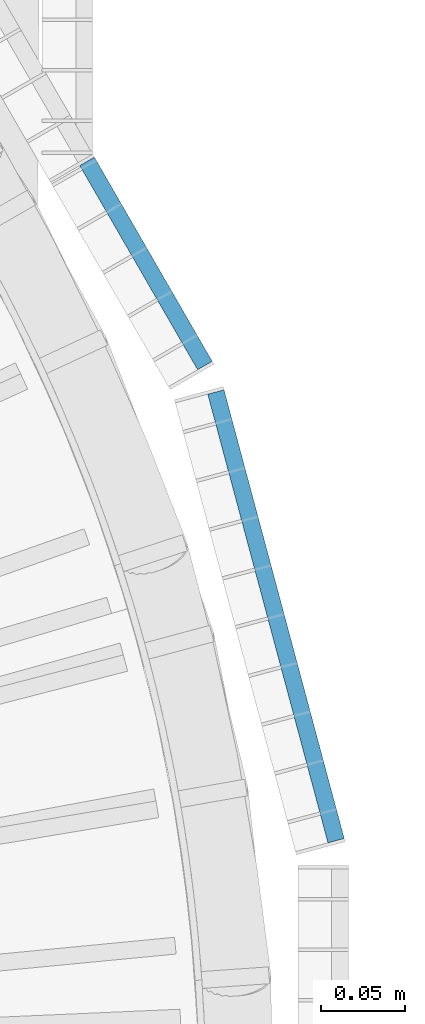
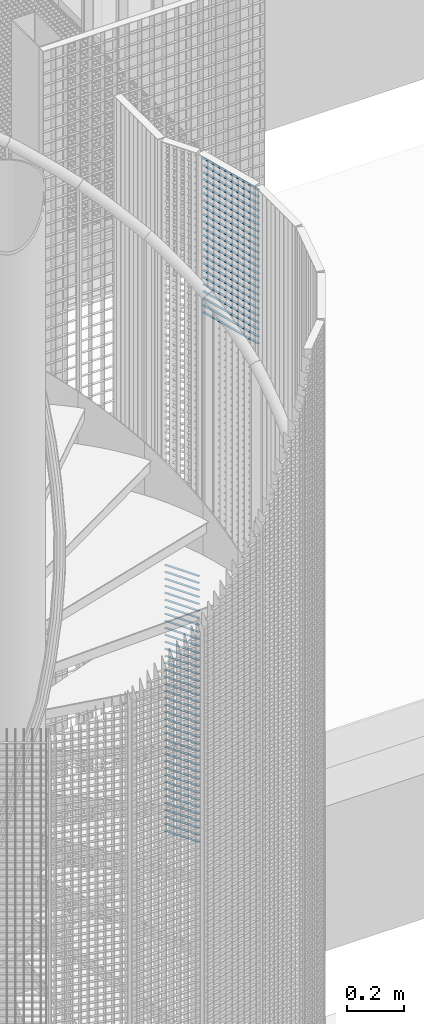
# One storey, part 275 of 1183: 62 beams, 2 elements without a shape of their own.
"""IFC2X3 building model written with IfcOpenShell, lengths in millimetres."""

from ifc_helpers import new_model, si_unit, frame, origin_with_axes, origin_2d_with_axis, place, context, subcontext, project, spatial, rectangle, extrude, material, type_object, element, aggregate, save


model = new_model("IFC2X3")

# Units and contexts
model_context = context("Model", 3, precision=1e-05, world=origin_with_axes())
body_context = subcontext(model_context, "Body", "Model", "MODEL_VIEW")
ifc_project = project(units=[si_unit("LENGTHUNIT", "METRE", prefix="MILLI"), si_unit("AREAUNIT", "SQUARE_METRE"), si_unit("VOLUMEUNIT", "CUBIC_METRE"), si_unit("MASSUNIT", "GRAM", prefix="KILO"), si_unit("TIMEUNIT", "SECOND"), si_unit("PLANEANGLEUNIT", "RADIAN"), si_unit("SOLIDANGLEUNIT", "STERADIAN"), si_unit("THERMODYNAMICTEMPERATUREUNIT", "DEGREE_CELSIUS"), si_unit("LUMINOUSINTENSITYUNIT", "LUMEN")], contexts=[model_context])

# Site, building, storey
site_placement = place(None, origin_with_axes())
site = spatial("IfcSite", under=ifc_project, at=site_placement, Name="Undefined", CompositionType="ELEMENT")
building_placement = place(site_placement, origin_with_axes())
building = spatial("IfcBuilding", under=site, at=building_placement, Name="Undefined", CompositionType="ELEMENT")
storey_placement = place(building_placement, origin_with_axes())
storey = spatial("IfcBuildingStorey", under=building, at=storey_placement, Name="Undefined", CompositionType="ELEMENT", Elevation=0.0)

# Assembly, beams
assembly_1_placement = place(storey_placement, origin_with_axes())
assembly_1 = element("IfcElementAssembly", 1, at=assembly_1_placement, inside=storey, Name="BORDURE", AssemblyPlace="NOTDEFINED", PredefinedType="NOTDEFINED")
ifc_material = material(Name="STEEL/S235JR")
beam_type = type_object("IfcBeamType", Name="PL2*10", PredefinedType="NOTDEFINED")
beam_1_placement = place(assembly_1_placement, frame((1033.29994283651, 437.23199953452, 16170.0), z_axis=(0.866030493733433, 0.499991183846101, 0.0), x_axis=(-0.499991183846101, 0.866030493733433, 0.0)))
beam_1 = element("IfcBeam", 2, at=beam_1_placement, type_object=beam_type, material=ifc_material, Name="ENTRETOISE", context=body_context, shape_type="SweptSolid", body=[
    extrude(rectangle(XDim=2.0, YDim=10.0, at=origin_2d_with_axis()), frame((140.102470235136, 0.0, 0.0), z_axis=(-1.0, 0.0, 0.0), x_axis=(0.0, -1.0, 0.0)), (0.0, 0.0, 1.0), 140.1),
])
beam_2_placement = place(assembly_1_placement, frame((1033.29994283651, 437.23199953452, 16140.0), z_axis=(0.866030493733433, 0.499991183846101, 0.0), x_axis=(-0.499991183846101, 0.866030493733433, 0.0)))
beam_2 = element("IfcBeam", 3, at=beam_2_placement, type_object=beam_type, material=ifc_material, Name="ENTRETOISE", context=body_context, shape_type="SweptSolid", body=[
    extrude(rectangle(XDim=2.0, YDim=10.0, at=origin_2d_with_axis()), frame((140.102470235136, 0.0, 0.0), z_axis=(-1.0, 0.0, 0.0), x_axis=(0.0, -1.0, 0.0)), (0.0, 0.0, 1.0), 140.1),
])
beam_3_placement = place(assembly_1_placement, frame((1033.29994283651, 437.231999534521, 15720.0), z_axis=(0.866030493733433, 0.499991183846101, 0.0), x_axis=(-0.499991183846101, 0.866030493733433, 0.0)))
beam_3 = element("IfcBeam", 4, at=beam_3_placement, type_object=beam_type, material=ifc_material, Name="ENTRETOISE", context=body_context, shape_type="SweptSolid", body=[
    extrude(rectangle(XDim=2.0, YDim=10.0, at=origin_2d_with_axis()), frame((140.102470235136, 0.0, 0.0), z_axis=(-1.0, 0.0, 0.0), x_axis=(0.0, -1.0, 0.0)), (0.0, 0.0, 1.0), 140.1),
])
beam_4_placement = place(assembly_1_placement, frame((1033.29994283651, 437.231999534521, 15690.0), z_axis=(0.866030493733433, 0.499991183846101, 0.0), x_axis=(-0.499991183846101, 0.866030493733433, 0.0)))
beam_4 = element("IfcBeam", 5, at=beam_4_placement, type_object=beam_type, material=ifc_material, Name="ENTRETOISE", context=body_context, shape_type="SweptSolid", body=[
    extrude(rectangle(XDim=2.0, YDim=10.0, at=origin_2d_with_axis()), frame((140.102470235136, 0.0, 0.0), z_axis=(-1.0, 0.0, 0.0), x_axis=(0.0, -1.0, 0.0)), (0.0, 0.0, 1.0), 140.1),
])
beam_5_placement = place(assembly_1_placement, frame((1033.29994283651, 437.231999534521, 15750.0), z_axis=(0.866030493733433, 0.499991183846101, 0.0), x_axis=(-0.499991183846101, 0.866030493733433, 0.0)))
beam_5 = element("IfcBeam", 6, at=beam_5_placement, type_object=beam_type, material=ifc_material, Name="ENTRETOISE", context=body_context, shape_type="SweptSolid", body=[
    extrude(rectangle(XDim=2.0, YDim=10.0, at=origin_2d_with_axis()), frame((140.102470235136, 0.0, 0.0), z_axis=(-1.0, 0.0, 0.0), x_axis=(0.0, -1.0, 0.0)), (0.0, 0.0, 1.0), 140.1),
])
beam_6_placement = place(assembly_1_placement, frame((1033.29994283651, 437.231999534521, 15660.0), z_axis=(0.866030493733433, 0.499991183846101, 0.0), x_axis=(-0.499991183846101, 0.866030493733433, 0.0)))
beam_6 = element("IfcBeam", 7, at=beam_6_placement, type_object=beam_type, material=ifc_material, Name="ENTRETOISE", context=body_context, shape_type="SweptSolid", body=[
    extrude(rectangle(XDim=2.0, YDim=10.0, at=origin_2d_with_axis()), frame((140.102470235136, 0.0, 0.0), z_axis=(-1.0, 0.0, 0.0), x_axis=(0.0, -1.0, 0.0)), (0.0, 0.0, 1.0), 140.1),
])
beam_7_placement = place(assembly_1_placement, frame((1033.29994283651, 437.231999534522, 15630.0), z_axis=(0.866030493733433, 0.499991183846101, 0.0), x_axis=(-0.499991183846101, 0.866030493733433, 0.0)))
beam_7 = element("IfcBeam", 8, at=beam_7_placement, type_object=beam_type, material=ifc_material, Name="ENTRETOISE", context=body_context, shape_type="SweptSolid", body=[
    extrude(rectangle(XDim=2.0, YDim=10.0, at=origin_2d_with_axis()), frame((140.102470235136, 0.0, 0.0), z_axis=(-1.0, 0.0, 0.0), x_axis=(0.0, -1.0, 0.0)), (0.0, 0.0, 1.0), 140.1),
])
beam_8_placement = place(assembly_1_placement, frame((1033.29994283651, 437.231999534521, 15780.0), z_axis=(0.866030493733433, 0.499991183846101, 0.0), x_axis=(-0.499991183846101, 0.866030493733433, 0.0)))
beam_8 = element("IfcBeam", 9, at=beam_8_placement, type_object=beam_type, material=ifc_material, Name="ENTRETOISE", context=body_context, shape_type="SweptSolid", body=[
    extrude(rectangle(XDim=2.0, YDim=10.0, at=origin_2d_with_axis()), frame((140.102470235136, 0.0, 0.0), z_axis=(-1.0, 0.0, 0.0), x_axis=(0.0, -1.0, 0.0)), (0.0, 0.0, 1.0), 140.1),
])
beam_9_placement = place(assembly_1_placement, frame((1033.29994283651, 437.231999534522, 15600.0), z_axis=(0.866030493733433, 0.499991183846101, 0.0), x_axis=(-0.499991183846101, 0.866030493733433, 0.0)))
beam_9 = element("IfcBeam", 10, at=beam_9_placement, type_object=beam_type, material=ifc_material, Name="ENTRETOISE", context=body_context, shape_type="SweptSolid", body=[
    extrude(rectangle(XDim=2.0, YDim=10.0, at=origin_2d_with_axis()), frame((140.102470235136, 0.0, 0.0), z_axis=(-1.0, 0.0, 0.0), x_axis=(0.0, -1.0, 0.0)), (0.0, 0.0, 1.0), 140.1),
])
beam_10_placement = place(assembly_1_placement, frame((1033.29994283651, 437.231999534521, 15810.0), z_axis=(0.866030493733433, 0.499991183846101, 0.0), x_axis=(-0.499991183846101, 0.866030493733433, 0.0)))
beam_10 = element("IfcBeam", 11, at=beam_10_placement, type_object=beam_type, material=ifc_material, Name="ENTRETOISE", context=body_context, shape_type="SweptSolid", body=[
    extrude(rectangle(XDim=2.0, YDim=10.0, at=origin_2d_with_axis()), frame((140.102470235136, 0.0, 0.0), z_axis=(-1.0, 0.0, 0.0), x_axis=(0.0, -1.0, 0.0)), (0.0, 0.0, 1.0), 140.1),
])
beam_11_placement = place(assembly_1_placement, frame((1033.29994283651, 437.231999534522, 15570.0), z_axis=(0.866030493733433, 0.499991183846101, 0.0), x_axis=(-0.499991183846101, 0.866030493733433, 0.0)))
beam_11 = element("IfcBeam", 12, at=beam_11_placement, type_object=beam_type, material=ifc_material, Name="ENTRETOISE", context=body_context, shape_type="SweptSolid", body=[
    extrude(rectangle(XDim=2.0, YDim=10.0, at=origin_2d_with_axis()), frame((140.102470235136, 0.0, 0.0), z_axis=(-1.0, 0.0, 0.0), x_axis=(0.0, -1.0, 0.0)), (0.0, 0.0, 1.0), 140.1),
])
beam_12_placement = place(assembly_1_placement, frame((1033.29994283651, 437.231999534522, 15540.0), z_axis=(0.866030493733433, 0.499991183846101, 0.0), x_axis=(-0.499991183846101, 0.866030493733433, 0.0)))
beam_12 = element("IfcBeam", 13, at=beam_12_placement, type_object=beam_type, material=ifc_material, Name="ENTRETOISE", context=body_context, shape_type="SweptSolid", body=[
    extrude(rectangle(XDim=2.0, YDim=10.0, at=origin_2d_with_axis()), frame((140.102470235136, 0.0, 0.0), z_axis=(-1.0, 0.0, 0.0), x_axis=(0.0, -1.0, 0.0)), (0.0, 0.0, 1.0), 140.1),
])
beam_13_placement = place(assembly_1_placement, frame((1033.29994283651, 437.231999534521, 15840.0), z_axis=(0.866030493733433, 0.499991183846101, 0.0), x_axis=(-0.499991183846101, 0.866030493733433, 0.0)))
beam_13 = element("IfcBeam", 14, at=beam_13_placement, type_object=beam_type, material=ifc_material, Name="ENTRETOISE", context=body_context, shape_type="SweptSolid", body=[
    extrude(rectangle(XDim=2.0, YDim=10.0, at=origin_2d_with_axis()), frame((140.102470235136, 0.0, 0.0), z_axis=(-1.0, 0.0, 0.0), x_axis=(0.0, -1.0, 0.0)), (0.0, 0.0, 1.0), 140.1),
])
beam_14_placement = place(assembly_1_placement, frame((1033.29994283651, 437.231999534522, 15510.0), z_axis=(0.866030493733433, 0.499991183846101, 0.0), x_axis=(-0.499991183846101, 0.866030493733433, 0.0)))
beam_14 = element("IfcBeam", 15, at=beam_14_placement, type_object=beam_type, material=ifc_material, Name="ENTRETOISE", context=body_context, shape_type="SweptSolid", body=[
    extrude(rectangle(XDim=2.0, YDim=10.0, at=origin_2d_with_axis()), frame((140.102470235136, 0.0, 0.0), z_axis=(-1.0, 0.0, 0.0), x_axis=(0.0, -1.0, 0.0)), (0.0, 0.0, 1.0), 140.1),
])
beam_15_placement = place(assembly_1_placement, frame((1033.29994283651, 437.231999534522, 15480.0), z_axis=(0.866030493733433, 0.499991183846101, 0.0), x_axis=(-0.499991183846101, 0.866030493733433, 0.0)))
beam_15 = element("IfcBeam", 16, at=beam_15_placement, type_object=beam_type, material=ifc_material, Name="ENTRETOISE", context=body_context, shape_type="SweptSolid", body=[
    extrude(rectangle(XDim=2.0, YDim=10.0, at=origin_2d_with_axis()), frame((140.102470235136, 0.0, 0.0), z_axis=(-1.0, 0.0, 0.0), x_axis=(0.0, -1.0, 0.0)), (0.0, 0.0, 1.0), 140.1),
])
beam_16_placement = place(assembly_1_placement, frame((1033.29994283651, 437.231999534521, 15870.0), z_axis=(0.866030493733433, 0.499991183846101, 0.0), x_axis=(-0.499991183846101, 0.866030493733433, 0.0)))
beam_16 = element("IfcBeam", 17, at=beam_16_placement, type_object=beam_type, material=ifc_material, Name="ENTRETOISE", context=body_context, shape_type="SweptSolid", body=[
    extrude(rectangle(XDim=2.0, YDim=10.0, at=origin_2d_with_axis()), frame((140.102470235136, 0.0, 0.0), z_axis=(-1.0, 0.0, 0.0), x_axis=(0.0, -1.0, 0.0)), (0.0, 0.0, 1.0), 140.1),
])
beam_17_placement = place(assembly_1_placement, frame((1033.29994283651, 437.231999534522, 15450.0), z_axis=(0.866030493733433, 0.499991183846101, 0.0), x_axis=(-0.499991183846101, 0.866030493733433, 0.0)))
beam_17 = element("IfcBeam", 18, at=beam_17_placement, type_object=beam_type, material=ifc_material, Name="ENTRETOISE", context=body_context, shape_type="SweptSolid", body=[
    extrude(rectangle(XDim=2.0, YDim=10.0, at=origin_2d_with_axis()), frame((140.102470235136, 0.0, 0.0), z_axis=(-1.0, 0.0, 0.0), x_axis=(0.0, -1.0, 0.0)), (0.0, 0.0, 1.0), 140.1),
])
beam_18_placement = place(assembly_1_placement, frame((1033.29994283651, 437.231999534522, 15420.0), z_axis=(0.866030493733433, 0.499991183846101, 0.0), x_axis=(-0.499991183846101, 0.866030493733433, 0.0)))
beam_18 = element("IfcBeam", 19, at=beam_18_placement, type_object=beam_type, material=ifc_material, Name="ENTRETOISE", context=body_context, shape_type="SweptSolid", body=[
    extrude(rectangle(XDim=2.0, YDim=10.0, at=origin_2d_with_axis()), frame((140.102470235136, 0.0, 0.0), z_axis=(-1.0, 0.0, 0.0), x_axis=(0.0, -1.0, 0.0)), (0.0, 0.0, 1.0), 140.1),
])
beam_19_placement = place(assembly_1_placement, frame((1033.29994283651, 437.231999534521, 15900.0), z_axis=(0.866030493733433, 0.499991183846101, 0.0), x_axis=(-0.499991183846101, 0.866030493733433, 0.0)))
beam_19 = element("IfcBeam", 20, at=beam_19_placement, type_object=beam_type, material=ifc_material, Name="ENTRETOISE", context=body_context, shape_type="SweptSolid", body=[
    extrude(rectangle(XDim=2.0, YDim=10.0, at=origin_2d_with_axis()), frame((140.102470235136, 0.0, 0.0), z_axis=(-1.0, 0.0, 0.0), x_axis=(0.0, -1.0, 0.0)), (0.0, 0.0, 1.0), 140.1),
])
beam_20_placement = place(assembly_1_placement, frame((1033.29994283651, 437.231999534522, 15390.0), z_axis=(0.866030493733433, 0.499991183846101, 0.0), x_axis=(-0.499991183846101, 0.866030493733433, 0.0)))
beam_20 = element("IfcBeam", 21, at=beam_20_placement, type_object=beam_type, material=ifc_material, Name="ENTRETOISE", context=body_context, shape_type="SweptSolid", body=[
    extrude(rectangle(XDim=2.0, YDim=10.0, at=origin_2d_with_axis()), frame((140.102470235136, 0.0, 0.0), z_axis=(-1.0, 0.0, 0.0), x_axis=(0.0, -1.0, 0.0)), (0.0, 0.0, 1.0), 140.1),
])
beam_21_placement = place(assembly_1_placement, frame((1033.29994283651, 437.23199953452, 15930.0), z_axis=(0.866030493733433, 0.499991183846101, 0.0), x_axis=(-0.499991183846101, 0.866030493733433, 0.0)))
beam_21 = element("IfcBeam", 22, at=beam_21_placement, type_object=beam_type, material=ifc_material, Name="ENTRETOISE", context=body_context, shape_type="SweptSolid", body=[
    extrude(rectangle(XDim=2.0, YDim=10.0, at=origin_2d_with_axis()), frame((140.102470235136, 0.0, 0.0), z_axis=(-1.0, 0.0, 0.0), x_axis=(0.0, -1.0, 0.0)), (0.0, 0.0, 1.0), 140.1),
])
beam_22_placement = place(assembly_1_placement, frame((1033.29994283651, 437.231999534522, 15360.0), z_axis=(0.866030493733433, 0.499991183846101, 0.0), x_axis=(-0.499991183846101, 0.866030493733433, 0.0)))
beam_22 = element("IfcBeam", 23, at=beam_22_placement, type_object=beam_type, material=ifc_material, Name="ENTRETOISE", context=body_context, shape_type="SweptSolid", body=[
    extrude(rectangle(XDim=2.0, YDim=10.0, at=origin_2d_with_axis()), frame((140.102470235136, 0.0, 0.0), z_axis=(-1.0, 0.0, 0.0), x_axis=(0.0, -1.0, 0.0)), (0.0, 0.0, 1.0), 140.1),
])
beam_23_placement = place(assembly_1_placement, frame((1033.29994283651, 437.231999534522, 15330.0), z_axis=(0.866030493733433, 0.499991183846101, 0.0), x_axis=(-0.499991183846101, 0.866030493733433, 0.0)))
beam_23 = element("IfcBeam", 24, at=beam_23_placement, type_object=beam_type, material=ifc_material, Name="ENTRETOISE", context=body_context, shape_type="SweptSolid", body=[
    extrude(rectangle(XDim=2.0, YDim=10.0, at=origin_2d_with_axis()), frame((140.102470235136, 0.0, 0.0), z_axis=(-1.0, 0.0, 0.0), x_axis=(0.0, -1.0, 0.0)), (0.0, 0.0, 1.0), 140.1),
])
beam_24_placement = place(assembly_1_placement, frame((1033.29994283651, 437.23199953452, 15960.0), z_axis=(0.866030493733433, 0.499991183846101, 0.0), x_axis=(-0.499991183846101, 0.866030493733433, 0.0)))
beam_24 = element("IfcBeam", 25, at=beam_24_placement, type_object=beam_type, material=ifc_material, Name="ENTRETOISE", context=body_context, shape_type="SweptSolid", body=[
    extrude(rectangle(XDim=2.0, YDim=10.0, at=origin_2d_with_axis()), frame((140.102470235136, 0.0, 0.0), z_axis=(-1.0, 0.0, 0.0), x_axis=(0.0, -1.0, 0.0)), (0.0, 0.0, 1.0), 140.1),
])
beam_25_placement = place(assembly_1_placement, frame((1033.29994283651, 437.231999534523, 15300.0), z_axis=(0.866030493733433, 0.499991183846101, 0.0), x_axis=(-0.499991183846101, 0.866030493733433, 0.0)))
beam_25 = element("IfcBeam", 26, at=beam_25_placement, type_object=beam_type, material=ifc_material, Name="ENTRETOISE", context=body_context, shape_type="SweptSolid", body=[
    extrude(rectangle(XDim=2.0, YDim=10.0, at=origin_2d_with_axis()), frame((140.102470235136, 0.0, 0.0), z_axis=(-1.0, 0.0, 0.0), x_axis=(0.0, -1.0, 0.0)), (0.0, 0.0, 1.0), 140.1),
])
beam_26_placement = place(assembly_1_placement, frame((1033.29994283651, 437.231999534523, 15270.0), z_axis=(0.866030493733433, 0.499991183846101, 0.0), x_axis=(-0.499991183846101, 0.866030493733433, 0.0)))
beam_26 = element("IfcBeam", 27, at=beam_26_placement, type_object=beam_type, material=ifc_material, Name="ENTRETOISE", context=body_context, shape_type="SweptSolid", body=[
    extrude(rectangle(XDim=2.0, YDim=10.0, at=origin_2d_with_axis()), frame((140.102470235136, 0.0, 0.0), z_axis=(-1.0, 0.0, 0.0), x_axis=(0.0, -1.0, 0.0)), (0.0, 0.0, 1.0), 140.1),
])
beam_27_placement = place(assembly_1_placement, frame((1033.29994283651, 437.23199953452, 15990.0), z_axis=(0.866030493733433, 0.499991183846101, 0.0), x_axis=(-0.499991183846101, 0.866030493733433, 0.0)))
beam_27 = element("IfcBeam", 28, at=beam_27_placement, type_object=beam_type, material=ifc_material, Name="ENTRETOISE", context=body_context, shape_type="SweptSolid", body=[
    extrude(rectangle(XDim=2.0, YDim=10.0, at=origin_2d_with_axis()), frame((140.102470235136, 0.0, 0.0), z_axis=(-1.0, 0.0, 0.0), x_axis=(0.0, -1.0, 0.0)), (0.0, 0.0, 1.0), 140.1),
])
beam_28_placement = place(assembly_1_placement, frame((1033.29994283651, 437.231999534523, 15240.0), z_axis=(0.866030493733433, 0.499991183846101, 0.0), x_axis=(-0.499991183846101, 0.866030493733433, 0.0)))
beam_28 = element("IfcBeam", 29, at=beam_28_placement, type_object=beam_type, material=ifc_material, Name="ENTRETOISE", context=body_context, shape_type="SweptSolid", body=[
    extrude(rectangle(XDim=2.0, YDim=10.0, at=origin_2d_with_axis()), frame((140.102470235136, 0.0, 0.0), z_axis=(-1.0, 0.0, 0.0), x_axis=(0.0, -1.0, 0.0)), (0.0, 0.0, 1.0), 140.1),
])
beam_29_placement = place(assembly_1_placement, frame((1033.29994283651, 437.23199953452, 16020.0), z_axis=(0.866030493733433, 0.499991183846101, 0.0), x_axis=(-0.499991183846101, 0.866030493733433, 0.0)))
beam_29 = element("IfcBeam", 30, at=beam_29_placement, type_object=beam_type, material=ifc_material, Name="ENTRETOISE", context=body_context, shape_type="SweptSolid", body=[
    extrude(rectangle(XDim=2.0, YDim=10.0, at=origin_2d_with_axis()), frame((140.102470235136, 0.0, 0.0), z_axis=(-1.0, 0.0, 0.0), x_axis=(0.0, -1.0, 0.0)), (0.0, 0.0, 1.0), 140.1),
])
beam_30_placement = place(assembly_1_placement, frame((1033.29994283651, 437.231999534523, 15210.0), z_axis=(0.866030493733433, 0.499991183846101, 0.0), x_axis=(-0.499991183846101, 0.866030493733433, 0.0)))
beam_30 = element("IfcBeam", 31, at=beam_30_placement, type_object=beam_type, material=ifc_material, Name="ENTRETOISE", context=body_context, shape_type="SweptSolid", body=[
    extrude(rectangle(XDim=2.0, YDim=10.0, at=origin_2d_with_axis()), frame((140.102470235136, 0.0, 0.0), z_axis=(-1.0, 0.0, 0.0), x_axis=(0.0, -1.0, 0.0)), (0.0, 0.0, 1.0), 140.1),
])
beam_31_placement = place(assembly_1_placement, frame((1033.29994283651, 437.231999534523, 15180.0), z_axis=(0.866030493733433, 0.499991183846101, 0.0), x_axis=(-0.499991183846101, 0.866030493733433, 0.0)))
beam_31 = element("IfcBeam", 32, at=beam_31_placement, type_object=beam_type, material=ifc_material, Name="ENTRETOISE", context=body_context, shape_type="SweptSolid", body=[
    extrude(rectangle(XDim=2.0, YDim=10.0, at=origin_2d_with_axis()), frame((140.102470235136, 0.0, 0.0), z_axis=(-1.0, 0.0, 0.0), x_axis=(0.0, -1.0, 0.0)), (0.0, 0.0, 1.0), 140.1),
])
beam_32_placement = place(assembly_1_placement, frame((1033.29994283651, 437.23199953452, 16050.0), z_axis=(0.866030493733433, 0.499991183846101, 0.0), x_axis=(-0.499991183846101, 0.866030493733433, 0.0)))
beam_32 = element("IfcBeam", 33, at=beam_32_placement, type_object=beam_type, material=ifc_material, Name="ENTRETOISE", context=body_context, shape_type="SweptSolid", body=[
    extrude(rectangle(XDim=2.0, YDim=10.0, at=origin_2d_with_axis()), frame((140.102470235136, 0.0, 0.0), z_axis=(-1.0, 0.0, 0.0), x_axis=(0.0, -1.0, 0.0)), (0.0, 0.0, 1.0), 140.1),
])
beam_33_placement = place(assembly_1_placement, frame((1033.29994283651, 437.231999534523, 15150.0), z_axis=(0.866030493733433, 0.499991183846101, 0.0), x_axis=(-0.499991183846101, 0.866030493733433, 0.0)))
beam_33 = element("IfcBeam", 34, at=beam_33_placement, type_object=beam_type, material=ifc_material, Name="ENTRETOISE", context=body_context, shape_type="SweptSolid", body=[
    extrude(rectangle(XDim=2.0, YDim=10.0, at=origin_2d_with_axis()), frame((140.102470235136, 0.0, 0.0), z_axis=(-1.0, 0.0, 0.0), x_axis=(0.0, -1.0, 0.0)), (0.0, 0.0, 1.0), 140.1),
])
beam_34_placement = place(assembly_1_placement, frame((1033.29994283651, 437.231999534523, 15120.0), z_axis=(0.866030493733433, 0.499991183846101, 0.0), x_axis=(-0.499991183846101, 0.866030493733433, 0.0)))
beam_34 = element("IfcBeam", 35, at=beam_34_placement, type_object=beam_type, material=ifc_material, Name="ENTRETOISE", context=body_context, shape_type="SweptSolid", body=[
    extrude(rectangle(XDim=2.0, YDim=10.0, at=origin_2d_with_axis()), frame((140.102470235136, 0.0, 0.0), z_axis=(-1.0, 0.0, 0.0), x_axis=(0.0, -1.0, 0.0)), (0.0, 0.0, 1.0), 140.1),
])
beam_35_placement = place(assembly_1_placement, frame((1033.29994283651, 437.23199953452, 16080.0), z_axis=(0.866030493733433, 0.499991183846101, 0.0), x_axis=(-0.499991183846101, 0.866030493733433, 0.0)))
beam_35 = element("IfcBeam", 36, at=beam_35_placement, type_object=beam_type, material=ifc_material, Name="ENTRETOISE", context=body_context, shape_type="SweptSolid", body=[
    extrude(rectangle(XDim=2.0, YDim=10.0, at=origin_2d_with_axis()), frame((140.102470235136, 0.0, 0.0), z_axis=(-1.0, 0.0, 0.0), x_axis=(0.0, -1.0, 0.0)), (0.0, 0.0, 1.0), 140.1),
])
beam_36_placement = place(assembly_1_placement, frame((1033.29994283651, 437.231999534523, 15090.0), z_axis=(0.866030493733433, 0.499991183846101, 0.0), x_axis=(-0.499991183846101, 0.866030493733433, 0.0)))
beam_36 = element("IfcBeam", 37, at=beam_36_placement, type_object=beam_type, material=ifc_material, Name="ENTRETOISE", context=body_context, shape_type="SweptSolid", body=[
    extrude(rectangle(XDim=2.0, YDim=10.0, at=origin_2d_with_axis()), frame((140.102470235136, 0.0, 0.0), z_axis=(-1.0, 0.0, 0.0), x_axis=(0.0, -1.0, 0.0)), (0.0, 0.0, 1.0), 140.1),
])
beam_37_placement = place(assembly_1_placement, frame((1033.2999428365, 437.231999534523, 15060.0), z_axis=(0.866030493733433, 0.499991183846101, 0.0), x_axis=(-0.499991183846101, 0.866030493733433, 0.0)))
beam_37 = element("IfcBeam", 38, at=beam_37_placement, type_object=beam_type, material=ifc_material, Name="ENTRETOISE", context=body_context, shape_type="SweptSolid", body=[
    extrude(rectangle(XDim=2.0, YDim=10.0, at=origin_2d_with_axis()), frame((140.102470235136, 0.0, 0.0), z_axis=(-1.0, 0.0, 0.0), x_axis=(0.0, -1.0, 0.0)), (0.0, 0.0, 1.0), 140.1),
])
beam_38_placement = place(assembly_1_placement, frame((1033.29994283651, 437.23199953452, 16110.0), z_axis=(0.866030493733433, 0.499991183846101, 0.0), x_axis=(-0.499991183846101, 0.866030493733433, 0.0)))
beam_38 = element("IfcBeam", 39, at=beam_38_placement, type_object=beam_type, material=ifc_material, Name="ENTRETOISE", context=body_context, shape_type="SweptSolid", body=[
    extrude(rectangle(XDim=2.0, YDim=10.0, at=origin_2d_with_axis()), frame((140.102470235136, 0.0, 0.0), z_axis=(-1.0, 0.0, 0.0), x_axis=(0.0, -1.0, 0.0)), (0.0, 0.0, 1.0), 140.1),
])
beam_39_placement = place(assembly_1_placement, frame((1033.2999428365, 437.231999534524, 15030.0), z_axis=(0.866030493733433, 0.499991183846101, 0.0), x_axis=(-0.499991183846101, 0.866030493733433, 0.0)))
beam_39 = element("IfcBeam", 40, at=beam_39_placement, type_object=beam_type, material=ifc_material, Name="ENTRETOISE", context=body_context, shape_type="SweptSolid", body=[
    extrude(rectangle(XDim=2.0, YDim=10.0, at=origin_2d_with_axis()), frame((140.102470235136, 0.0, 0.0), z_axis=(-1.0, 0.0, 0.0), x_axis=(0.0, -1.0, 0.0)), (0.0, 0.0, 1.0), 140.1),
])
aggregate(assembly_1, [beam_1, beam_2, beam_3, beam_4, beam_5, beam_6, beam_7, beam_8, beam_9, beam_10, beam_11, beam_12, beam_13, beam_14, beam_15, beam_16, beam_17, beam_18, beam_19, beam_20, beam_21, beam_22, beam_23, beam_24, beam_25, beam_26, beam_27, beam_28, beam_29, beam_30, beam_31, beam_32, beam_33, beam_34, beam_35, beam_36, beam_37, beam_38, beam_39])

assembly_2_placement = place(storey_placement, origin_with_axes())
assembly_2 = element("IfcElementAssembly", 41, at=assembly_2_placement, inside=storey, Name="BORDURE", AssemblyPlace="NOTDEFINED", PredefinedType="NOTDEFINED")
beam_40_placement = place(assembly_2_placement, frame((1111.25508286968, 154.895926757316, 17970.0), z_axis=(0.965925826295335, 0.258819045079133, 0.0), x_axis=(-0.258819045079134, 0.965925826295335, 0.0)))
beam_40 = element("IfcBeam", 42, at=beam_40_placement, type_object=beam_type, material=ifc_material, Name="ENTRETOISE", context=body_context, shape_type="SweptSolid", body=[
    extrude(rectangle(XDim=2.0, YDim=10.0, at=origin_2d_with_axis()), frame((275.999999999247, 9.09494701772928e-13, 1.53210777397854e-14), z_axis=(-1.0, 0.0, 0.0), x_axis=(0.0, -1.0, 0.0)), (0.0, 0.0, 1.0), 276.0),
])
beam_41_placement = place(assembly_2_placement, frame((1111.25508286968, 154.895926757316, 17940.0), z_axis=(0.965925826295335, 0.258819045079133, 0.0), x_axis=(-0.258819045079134, 0.965925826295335, 0.0)))
beam_41 = element("IfcBeam", 43, at=beam_41_placement, type_object=beam_type, material=ifc_material, Name="ENTRETOISE", context=body_context, shape_type="SweptSolid", body=[
    extrude(rectangle(XDim=2.0, YDim=10.0, at=origin_2d_with_axis()), frame((275.999999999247, 9.09494701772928e-13, 1.53210777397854e-14), z_axis=(-1.0, 0.0, 0.0), x_axis=(0.0, -1.0, 0.0)), (0.0, 0.0, 1.0), 276.0),
])
beam_42_placement = place(assembly_2_placement, frame((1111.25508286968, 154.895926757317, 17910.0), z_axis=(0.965925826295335, 0.258819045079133, 0.0), x_axis=(-0.258819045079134, 0.965925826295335, 0.0)))
beam_42 = element("IfcBeam", 44, at=beam_42_placement, type_object=beam_type, material=ifc_material, Name="ENTRETOISE", context=body_context, shape_type="SweptSolid", body=[
    extrude(rectangle(XDim=2.0, YDim=10.0, at=origin_2d_with_axis()), frame((275.999999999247, 9.09494701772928e-13, 1.53210777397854e-14), z_axis=(-1.0, 0.0, 0.0), x_axis=(0.0, -1.0, 0.0)), (0.0, 0.0, 1.0), 276.0),
])
beam_43_placement = place(assembly_2_placement, frame((1111.25508286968, 154.895926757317, 17880.0), z_axis=(0.965925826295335, 0.258819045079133, 0.0), x_axis=(-0.258819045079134, 0.965925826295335, 0.0)))
beam_43 = element("IfcBeam", 45, at=beam_43_placement, type_object=beam_type, material=ifc_material, Name="ENTRETOISE", context=body_context, shape_type="SweptSolid", body=[
    extrude(rectangle(XDim=2.0, YDim=10.0, at=origin_2d_with_axis()), frame((275.999999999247, 9.09494701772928e-13, 1.53210777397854e-14), z_axis=(-1.0, 0.0, 0.0), x_axis=(0.0, -1.0, 0.0)), (0.0, 0.0, 1.0), 276.0),
])
beam_44_placement = place(assembly_2_placement, frame((1111.25508286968, 154.895926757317, 17850.0), z_axis=(0.965925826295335, 0.258819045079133, 0.0), x_axis=(-0.258819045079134, 0.965925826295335, 0.0)))
beam_44 = element("IfcBeam", 46, at=beam_44_placement, type_object=beam_type, material=ifc_material, Name="ENTRETOISE", context=body_context, shape_type="SweptSolid", body=[
    extrude(rectangle(XDim=2.0, YDim=10.0, at=origin_2d_with_axis()), frame((275.999999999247, 9.09494701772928e-13, 1.53210777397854e-14), z_axis=(-1.0, 0.0, 0.0), x_axis=(0.0, -1.0, 0.0)), (0.0, 0.0, 1.0), 276.0),
])
beam_45_placement = place(assembly_2_placement, frame((1111.25508286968, 154.895926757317, 17820.0), z_axis=(0.965925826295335, 0.258819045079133, 0.0), x_axis=(-0.258819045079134, 0.965925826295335, 0.0)))
beam_45 = element("IfcBeam", 47, at=beam_45_placement, type_object=beam_type, material=ifc_material, Name="ENTRETOISE", context=body_context, shape_type="SweptSolid", body=[
    extrude(rectangle(XDim=2.0, YDim=10.0, at=origin_2d_with_axis()), frame((275.999999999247, 9.09494701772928e-13, 1.53210777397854e-14), z_axis=(-1.0, 0.0, 0.0), x_axis=(0.0, -1.0, 0.0)), (0.0, 0.0, 1.0), 276.0),
])
beam_46_placement = place(assembly_2_placement, frame((1111.25508286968, 154.895926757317, 17790.0), z_axis=(0.965925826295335, 0.258819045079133, 0.0), x_axis=(-0.258819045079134, 0.965925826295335, 0.0)))
beam_46 = element("IfcBeam", 48, at=beam_46_placement, type_object=beam_type, material=ifc_material, Name="ENTRETOISE", context=body_context, shape_type="SweptSolid", body=[
    extrude(rectangle(XDim=2.0, YDim=10.0, at=origin_2d_with_axis()), frame((275.999999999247, 9.09494701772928e-13, 1.53210777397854e-14), z_axis=(-1.0, 0.0, 0.0), x_axis=(0.0, -1.0, 0.0)), (0.0, 0.0, 1.0), 276.0),
])
beam_47_placement = place(assembly_2_placement, frame((1111.25508286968, 154.895926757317, 17760.0), z_axis=(0.965925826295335, 0.258819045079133, 0.0), x_axis=(-0.258819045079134, 0.965925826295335, 0.0)))
beam_47 = element("IfcBeam", 49, at=beam_47_placement, type_object=beam_type, material=ifc_material, Name="ENTRETOISE", context=body_context, shape_type="SweptSolid", body=[
    extrude(rectangle(XDim=2.0, YDim=10.0, at=origin_2d_with_axis()), frame((275.999999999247, 9.09494701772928e-13, 1.53210777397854e-14), z_axis=(-1.0, 0.0, 0.0), x_axis=(0.0, -1.0, 0.0)), (0.0, 0.0, 1.0), 276.0),
])
beam_48_placement = place(assembly_2_placement, frame((1111.25508286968, 154.895926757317, 17730.0), z_axis=(0.965925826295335, 0.258819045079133, 0.0), x_axis=(-0.258819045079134, 0.965925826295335, 0.0)))
beam_48 = element("IfcBeam", 50, at=beam_48_placement, type_object=beam_type, material=ifc_material, Name="ENTRETOISE", context=body_context, shape_type="SweptSolid", body=[
    extrude(rectangle(XDim=2.0, YDim=10.0, at=origin_2d_with_axis()), frame((275.999999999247, 9.09494701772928e-13, 1.53210777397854e-14), z_axis=(-1.0, 0.0, 0.0), x_axis=(0.0, -1.0, 0.0)), (0.0, 0.0, 1.0), 276.0),
])
beam_49_placement = place(assembly_2_placement, frame((1111.25508286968, 154.895926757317, 17700.0), z_axis=(0.965925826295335, 0.258819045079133, 0.0), x_axis=(-0.258819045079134, 0.965925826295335, 0.0)))
beam_49 = element("IfcBeam", 51, at=beam_49_placement, type_object=beam_type, material=ifc_material, Name="ENTRETOISE", context=body_context, shape_type="SweptSolid", body=[
    extrude(rectangle(XDim=2.0, YDim=10.0, at=origin_2d_with_axis()), frame((275.999999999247, 9.09494701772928e-13, 1.53210777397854e-14), z_axis=(-1.0, 0.0, 0.0), x_axis=(0.0, -1.0, 0.0)), (0.0, 0.0, 1.0), 276.0),
])
beam_50_placement = place(assembly_2_placement, frame((1111.25508286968, 154.895926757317, 17670.0), z_axis=(0.965925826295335, 0.258819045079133, 0.0), x_axis=(-0.258819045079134, 0.965925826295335, 0.0)))
beam_50 = element("IfcBeam", 52, at=beam_50_placement, type_object=beam_type, material=ifc_material, Name="ENTRETOISE", context=body_context, shape_type="SweptSolid", body=[
    extrude(rectangle(XDim=2.0, YDim=10.0, at=origin_2d_with_axis()), frame((275.999999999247, 9.09494701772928e-13, 1.53210777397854e-14), z_axis=(-1.0, 0.0, 0.0), x_axis=(0.0, -1.0, 0.0)), (0.0, 0.0, 1.0), 276.0),
])
beam_51_placement = place(assembly_2_placement, frame((1111.25508286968, 154.895926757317, 17640.0), z_axis=(0.965925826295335, 0.258819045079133, 0.0), x_axis=(-0.258819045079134, 0.965925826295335, 0.0)))
beam_51 = element("IfcBeam", 53, at=beam_51_placement, type_object=beam_type, material=ifc_material, Name="ENTRETOISE", context=body_context, shape_type="SweptSolid", body=[
    extrude(rectangle(XDim=2.0, YDim=10.0, at=origin_2d_with_axis()), frame((275.999999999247, 9.09494701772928e-13, 1.53210777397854e-14), z_axis=(-1.0, 0.0, 0.0), x_axis=(0.0, -1.0, 0.0)), (0.0, 0.0, 1.0), 276.0),
])
beam_52_placement = place(assembly_2_placement, frame((1111.25508286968, 154.895926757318, 17610.0), z_axis=(0.965925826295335, 0.258819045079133, 0.0), x_axis=(-0.258819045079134, 0.965925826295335, 0.0)))
beam_52 = element("IfcBeam", 54, at=beam_52_placement, type_object=beam_type, material=ifc_material, Name="ENTRETOISE", context=body_context, shape_type="SweptSolid", body=[
    extrude(rectangle(XDim=2.0, YDim=10.0, at=origin_2d_with_axis()), frame((275.999999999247, 9.09494701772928e-13, 1.53210777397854e-14), z_axis=(-1.0, 0.0, 0.0), x_axis=(0.0, -1.0, 0.0)), (0.0, 0.0, 1.0), 276.0),
])
beam_53_placement = place(assembly_2_placement, frame((1111.25508286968, 154.895926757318, 17580.0), z_axis=(0.965925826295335, 0.258819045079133, 0.0), x_axis=(-0.258819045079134, 0.965925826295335, 0.0)))
beam_53 = element("IfcBeam", 55, at=beam_53_placement, type_object=beam_type, material=ifc_material, Name="ENTRETOISE", context=body_context, shape_type="SweptSolid", body=[
    extrude(rectangle(XDim=2.0, YDim=10.0, at=origin_2d_with_axis()), frame((275.999999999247, 9.09494701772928e-13, 1.53210777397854e-14), z_axis=(-1.0, 0.0, 0.0), x_axis=(0.0, -1.0, 0.0)), (0.0, 0.0, 1.0), 276.0),
])
beam_54_placement = place(assembly_2_placement, frame((1111.25508286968, 154.895926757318, 17550.0), z_axis=(0.965925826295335, 0.258819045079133, 0.0), x_axis=(-0.258819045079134, 0.965925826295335, 0.0)))
beam_54 = element("IfcBeam", 56, at=beam_54_placement, type_object=beam_type, material=ifc_material, Name="ENTRETOISE", context=body_context, shape_type="SweptSolid", body=[
    extrude(rectangle(XDim=2.0, YDim=10.0, at=origin_2d_with_axis()), frame((275.999999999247, 9.09494701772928e-13, 1.53210777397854e-14), z_axis=(-1.0, 0.0, 0.0), x_axis=(0.0, -1.0, 0.0)), (0.0, 0.0, 1.0), 276.0),
])
beam_55_placement = place(assembly_2_placement, frame((1111.25508286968, 154.895926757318, 17520.0), z_axis=(0.965925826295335, 0.258819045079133, 0.0), x_axis=(-0.258819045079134, 0.965925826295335, 0.0)))
beam_55 = element("IfcBeam", 57, at=beam_55_placement, type_object=beam_type, material=ifc_material, Name="ENTRETOISE", context=body_context, shape_type="SweptSolid", body=[
    extrude(rectangle(XDim=2.0, YDim=10.0, at=origin_2d_with_axis()), frame((275.999999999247, 9.09494701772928e-13, 1.53210777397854e-14), z_axis=(-1.0, 0.0, 0.0), x_axis=(0.0, -1.0, 0.0)), (0.0, 0.0, 1.0), 276.0),
])
beam_56_placement = place(assembly_2_placement, frame((1111.25508286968, 154.895926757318, 17490.0), z_axis=(0.965925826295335, 0.258819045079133, 0.0), x_axis=(-0.258819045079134, 0.965925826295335, 0.0)))
beam_56 = element("IfcBeam", 58, at=beam_56_placement, type_object=beam_type, material=ifc_material, Name="ENTRETOISE", context=body_context, shape_type="SweptSolid", body=[
    extrude(rectangle(XDim=2.0, YDim=10.0, at=origin_2d_with_axis()), frame((275.999999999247, 9.09494701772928e-13, 1.53210777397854e-14), z_axis=(-1.0, 0.0, 0.0), x_axis=(0.0, -1.0, 0.0)), (0.0, 0.0, 1.0), 276.0),
])
beam_57_placement = place(assembly_2_placement, frame((1111.25508286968, 154.895926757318, 17460.0), z_axis=(0.965925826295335, 0.258819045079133, 0.0), x_axis=(-0.258819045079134, 0.965925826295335, 0.0)))
beam_57 = element("IfcBeam", 59, at=beam_57_placement, type_object=beam_type, material=ifc_material, Name="ENTRETOISE", context=body_context, shape_type="SweptSolid", body=[
    extrude(rectangle(XDim=2.0, YDim=10.0, at=origin_2d_with_axis()), frame((275.999999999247, 9.09494701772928e-13, 1.53210777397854e-14), z_axis=(-1.0, 0.0, 0.0), x_axis=(0.0, -1.0, 0.0)), (0.0, 0.0, 1.0), 276.0),
])
beam_58_placement = place(assembly_2_placement, frame((1111.25508286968, 154.895926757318, 17430.0), z_axis=(0.965925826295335, 0.258819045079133, 0.0), x_axis=(-0.258819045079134, 0.965925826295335, 0.0)))
beam_58 = element("IfcBeam", 60, at=beam_58_placement, type_object=beam_type, material=ifc_material, Name="ENTRETOISE", context=body_context, shape_type="SweptSolid", body=[
    extrude(rectangle(XDim=2.0, YDim=10.0, at=origin_2d_with_axis()), frame((275.999999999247, 9.09494701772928e-13, 1.53210777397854e-14), z_axis=(-1.0, 0.0, 0.0), x_axis=(0.0, -1.0, 0.0)), (0.0, 0.0, 1.0), 276.0),
])
beam_59_placement = place(assembly_2_placement, frame((1111.25508286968, 154.895926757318, 17400.0), z_axis=(0.965925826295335, 0.258819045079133, 0.0), x_axis=(-0.258819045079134, 0.965925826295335, 0.0)))
beam_59 = element("IfcBeam", 61, at=beam_59_placement, type_object=beam_type, material=ifc_material, Name="ENTRETOISE", context=body_context, shape_type="SweptSolid", body=[
    extrude(rectangle(XDim=2.0, YDim=10.0, at=origin_2d_with_axis()), frame((275.999999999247, 9.09494701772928e-13, 1.53210777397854e-14), z_axis=(-1.0, 0.0, 0.0), x_axis=(0.0, -1.0, 0.0)), (0.0, 0.0, 1.0), 276.0),
])
beam_60_placement = place(assembly_2_placement, frame((1111.25508286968, 154.895926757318, 17370.0), z_axis=(0.965925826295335, 0.258819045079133, 0.0), x_axis=(-0.258819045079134, 0.965925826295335, 0.0)))
beam_60 = element("IfcBeam", 62, at=beam_60_placement, type_object=beam_type, material=ifc_material, Name="ENTRETOISE", context=body_context, shape_type="SweptSolid", body=[
    extrude(rectangle(XDim=2.0, YDim=10.0, at=origin_2d_with_axis()), frame((275.999999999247, 9.09494701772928e-13, 1.53210777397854e-14), z_axis=(-1.0, 0.0, 0.0), x_axis=(0.0, -1.0, 0.0)), (0.0, 0.0, 1.0), 276.0),
])
beam_61_placement = place(assembly_2_placement, frame((1111.25508286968, 154.895926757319, 17340.0), z_axis=(0.965925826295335, 0.258819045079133, 0.0), x_axis=(-0.258819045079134, 0.965925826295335, 0.0)))
beam_61 = element("IfcBeam", 63, at=beam_61_placement, type_object=beam_type, material=ifc_material, Name="ENTRETOISE", context=body_context, shape_type="SweptSolid", body=[
    extrude(rectangle(XDim=2.0, YDim=10.0, at=origin_2d_with_axis()), frame((275.999999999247, 9.09494701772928e-13, 1.53210777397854e-14), z_axis=(-1.0, 0.0, 0.0), x_axis=(0.0, -1.0, 0.0)), (0.0, 0.0, 1.0), 276.0),
])
beam_62_placement = place(assembly_2_placement, frame((1111.25508286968, 154.895926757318, 17310.0), z_axis=(0.965925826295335, 0.258819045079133, 0.0), x_axis=(-0.258819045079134, 0.965925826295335, 0.0)))
beam_62 = element("IfcBeam", 64, at=beam_62_placement, type_object=beam_type, material=ifc_material, Name="ENTRETOISE", context=body_context, shape_type="SweptSolid", body=[
    extrude(rectangle(XDim=2.0, YDim=10.0, at=origin_2d_with_axis()), frame((275.999999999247, 9.09494701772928e-13, 1.53210777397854e-14), z_axis=(-1.0, 0.0, 0.0), x_axis=(0.0, -1.0, 0.0)), (0.0, 0.0, 1.0), 276.0),
])
aggregate(assembly_2, [beam_40, beam_41, beam_42, beam_43, beam_44, beam_45, beam_46, beam_47, beam_48, beam_49, beam_50, beam_51, beam_52, beam_53, beam_54, beam_55, beam_56, beam_57, beam_58, beam_59, beam_60, beam_61, beam_62])

save(model, "model.ifc")
